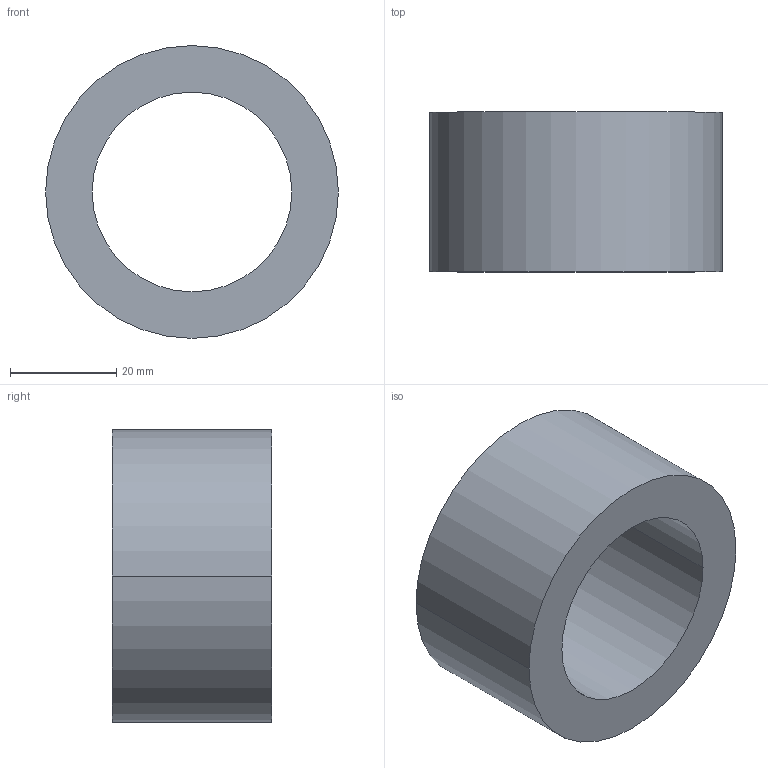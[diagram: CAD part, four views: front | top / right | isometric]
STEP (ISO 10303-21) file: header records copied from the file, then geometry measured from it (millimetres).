
FILE_DESCRIPTION (( 'STEP AP203' ), '1' );
FILE_NAME ('30800.WPP55L37.5.step', '2019-01-23T22:54:30', ( '' ), ( '' ), 'SwSTEP 2.0', 'SolidWorks 2017', '' );
FILE_SCHEMA (( 'CONFIG_CONTROL_DESIGN' ));
Length unit declared in the file: millimetre
Products named in the file (1): 30800.WPP55L37.5
Bounding box: 55 x 30 x 55 mm (x, y, z)
Volume: 37818.3 mm3; surface area: 11089.1 mm2
Topology: 1 solids, 1 shells, 8 faces, 16 edges, 10 vertices
Faces by surface type: cylinder 4, torus 2, plane 2
Entity records: 297 total; most frequent: DIRECTION 46, CARTESIAN_POINT 35, ORIENTED_EDGE 32, AXIS2_PLACEMENT_3D 21, EDGE_CURVE 16, CIRCLE 12, VERTEX_POINT 10, EDGE_LOOP 10
